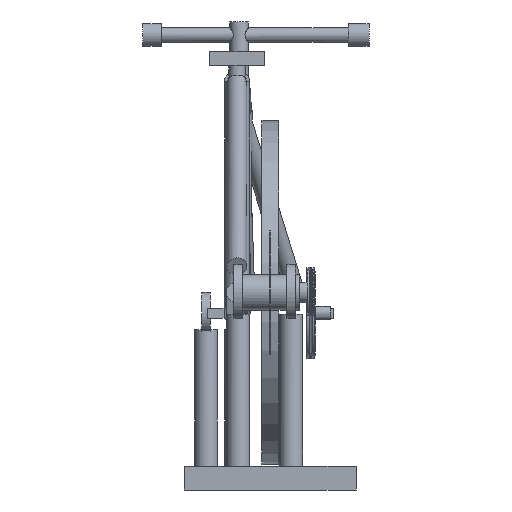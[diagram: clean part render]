
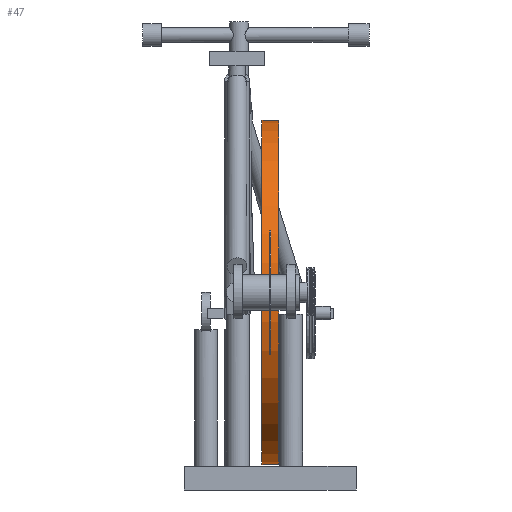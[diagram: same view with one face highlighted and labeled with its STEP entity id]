
A CAD part, left-side view. The second image highlights one B-rep face of the part: STEP entity #47.
In plain terms, the highlighted cylindrical face has radius 331 mm (diameter 662 mm), a full revolution.
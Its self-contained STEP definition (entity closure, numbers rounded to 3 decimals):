
#47 = ADVANCED_FACE('',(#48),#61,.T.);
#48 = FACE_BOUND('',#49,.T.);
#49 = EDGE_LOOP('',(#50,#84,#107,#134));
#50 = ORIENTED_EDGE('',*,*,#51,.F.);
#51 = EDGE_CURVE('',#52,#52,#54,.T.);
#52 = VERTEX_POINT('',#53);
#53 = CARTESIAN_POINT('',(800.,16.,711.));
#54 = SURFACE_CURVE('',#55,(#60,#72),.PCURVE_S1.);
#55 = CIRCLE('',#56,331.);
#56 = AXIS2_PLACEMENT_3D('',#57,#58,#59);
#57 = CARTESIAN_POINT('',(800.,16.,380.));
#58 = DIRECTION('',(0.,1.,0.));
#59 = DIRECTION('',(0.,0.,1.));
#60 = PCURVE('',#61,#66);
#61 = CYLINDRICAL_SURFACE('',#62,331.);
#62 = AXIS2_PLACEMENT_3D('',#63,#64,#65);
#63 = CARTESIAN_POINT('',(800.,-16.,380.));
#64 = DIRECTION('',(0.,1.,0.));
#65 = DIRECTION('',(0.,0.,1.));
#66 = DEFINITIONAL_REPRESENTATION('',(#67),#71);
#67 = LINE('',#68,#69);
#68 = CARTESIAN_POINT('',(0.,32.));
#69 = VECTOR('',#70,1.);
#70 = DIRECTION('',(1.,0.));
#71 = ( GEOMETRIC_REPRESENTATION_CONTEXT(2) 
PARAMETRIC_REPRESENTATION_CONTEXT() REPRESENTATION_CONTEXT('2D SPACE',''
  ) );
#72 = PCURVE('',#73,#78);
#73 = PLANE('',#74);
#74 = AXIS2_PLACEMENT_3D('',#75,#76,#77);
#75 = CARTESIAN_POINT('',(800.,16.,380.));
#76 = DIRECTION('',(0.,1.,0.));
#77 = DIRECTION('',(0.,0.,1.));
#78 = DEFINITIONAL_REPRESENTATION('',(#79),#83);
#79 = CIRCLE('',#80,331.);
#80 = AXIS2_PLACEMENT_2D('',#81,#82);
#81 = CARTESIAN_POINT('',(0.,0.));
#82 = DIRECTION('',(1.,0.));
#83 = ( GEOMETRIC_REPRESENTATION_CONTEXT(2) 
PARAMETRIC_REPRESENTATION_CONTEXT() REPRESENTATION_CONTEXT('2D SPACE',''
  ) );
#84 = ORIENTED_EDGE('',*,*,#85,.F.);
#85 = EDGE_CURVE('',#86,#52,#88,.T.);
#86 = VERTEX_POINT('',#87);
#87 = CARTESIAN_POINT('',(800.,-16.,711.));
#88 = SEAM_CURVE('',#89,(#93,#100),.PCURVE_S1.);
#89 = LINE('',#90,#91);
#90 = CARTESIAN_POINT('',(800.,-16.,711.));
#91 = VECTOR('',#92,1.);
#92 = DIRECTION('',(0.,1.,0.));
#93 = PCURVE('',#61,#94);
#94 = DEFINITIONAL_REPRESENTATION('',(#95),#99);
#95 = LINE('',#96,#97);
#96 = CARTESIAN_POINT('',(6.283,-0.));
#97 = VECTOR('',#98,1.);
#98 = DIRECTION('',(0.,1.));
#99 = ( GEOMETRIC_REPRESENTATION_CONTEXT(2) 
PARAMETRIC_REPRESENTATION_CONTEXT() REPRESENTATION_CONTEXT('2D SPACE',''
  ) );
#100 = PCURVE('',#61,#101);
#101 = DEFINITIONAL_REPRESENTATION('',(#102),#106);
#102 = LINE('',#103,#104);
#103 = CARTESIAN_POINT('',(0.,-0.));
#104 = VECTOR('',#105,1.);
#105 = DIRECTION('',(0.,1.));
#106 = ( GEOMETRIC_REPRESENTATION_CONTEXT(2) 
PARAMETRIC_REPRESENTATION_CONTEXT() REPRESENTATION_CONTEXT('2D SPACE',''
  ) );
#107 = ORIENTED_EDGE('',*,*,#108,.T.);
#108 = EDGE_CURVE('',#86,#86,#109,.T.);
#109 = SURFACE_CURVE('',#110,(#115,#122),.PCURVE_S1.);
#110 = CIRCLE('',#111,331.);
#111 = AXIS2_PLACEMENT_3D('',#112,#113,#114);
#112 = CARTESIAN_POINT('',(800.,-16.,380.));
#113 = DIRECTION('',(0.,1.,0.));
#114 = DIRECTION('',(0.,0.,1.));
#115 = PCURVE('',#61,#116);
#116 = DEFINITIONAL_REPRESENTATION('',(#117),#121);
#117 = LINE('',#118,#119);
#118 = CARTESIAN_POINT('',(0.,0.));
#119 = VECTOR('',#120,1.);
#120 = DIRECTION('',(1.,0.));
#121 = ( GEOMETRIC_REPRESENTATION_CONTEXT(2) 
PARAMETRIC_REPRESENTATION_CONTEXT() REPRESENTATION_CONTEXT('2D SPACE',''
  ) );
#122 = PCURVE('',#123,#128);
#123 = PLANE('',#124);
#124 = AXIS2_PLACEMENT_3D('',#125,#126,#127);
#125 = CARTESIAN_POINT('',(800.,-16.,380.));
#126 = DIRECTION('',(0.,1.,0.));
#127 = DIRECTION('',(0.,0.,1.));
#128 = DEFINITIONAL_REPRESENTATION('',(#129),#133);
#129 = CIRCLE('',#130,331.);
#130 = AXIS2_PLACEMENT_2D('',#131,#132);
#131 = CARTESIAN_POINT('',(0.,0.));
#132 = DIRECTION('',(1.,0.));
#133 = ( GEOMETRIC_REPRESENTATION_CONTEXT(2) 
PARAMETRIC_REPRESENTATION_CONTEXT() REPRESENTATION_CONTEXT('2D SPACE',''
  ) );
#134 = ORIENTED_EDGE('',*,*,#85,.T.);
